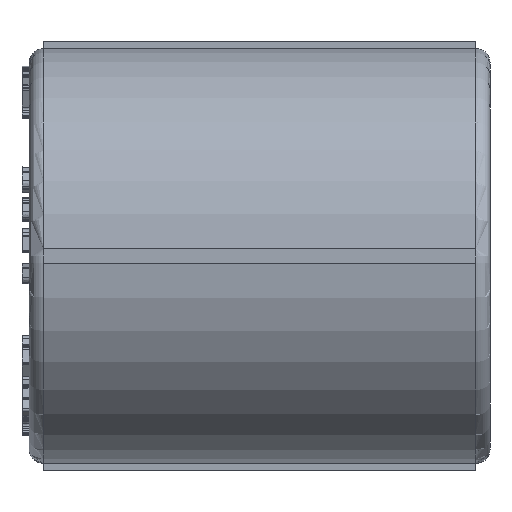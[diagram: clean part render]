
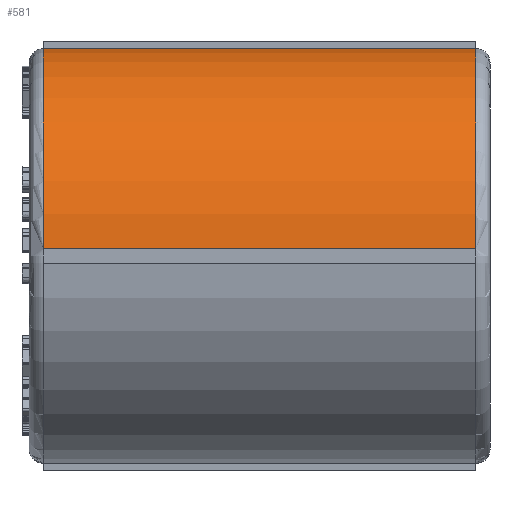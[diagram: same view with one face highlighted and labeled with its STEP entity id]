
A CAD part, left-side view. The second image highlights one B-rep face of the part: STEP entity #581.
In plain terms, the highlighted cylindrical face has radius 14.5 mm (diameter 29 mm), a partial arc.
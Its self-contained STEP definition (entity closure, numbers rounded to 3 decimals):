
#581=ADVANCED_FACE('',(#4056),#4058,.T.);
#4056=FACE_BOUND('',#4057,.T.);
#4057=EDGE_LOOP('',(#8224,#8225,#8226,#8227));
#4058=CYLINDRICAL_SURFACE('',#4059,14.5);
#4059=AXIS2_PLACEMENT_3D('',#4060,#4061,#4062);
#4060=CARTESIAN_POINT('',(0.,-16.1,0.));
#4061=DIRECTION('',(0.,1.,0.));
#4062=DIRECTION('',(-1.,0.,0.));
#8224=ORIENTED_EDGE('',*,*,#9837,.T.);
#8225=ORIENTED_EDGE('',*,*,#9838,.F.);
#8226=ORIENTED_EDGE('',*,*,#9829,.F.);
#8227=ORIENTED_EDGE('',*,*,#9839,.F.);
#9829=EDGE_CURVE('',#12372,#12374,#12375,.T.);
#9837=EDGE_CURVE('',#12387,#12388,#12389,.T.);
#9838=EDGE_CURVE('',#12374,#12388,#12390,.F.);
#9839=EDGE_CURVE('',#12387,#12372,#12391,.T.);
#12372=VERTEX_POINT('',#17933);
#12374=VERTEX_POINT('',#17938);
#12375=CIRCLE('',#17939,14.5);
#12387=VERTEX_POINT('',#17971);
#12388=VERTEX_POINT('',#17972);
#12389=CIRCLE('',#17973,14.5);
#12390=LINE('',#17977,#17978);
#12391=LINE('',#17980,#17981);
#17933=CARTESIAN_POINT('',(-14.491,15.1,0.5));
#17938=CARTESIAN_POINT('',(-0.5,15.1,14.491));
#17939=AXIS2_PLACEMENT_3D('',#17940,#17941,#17942);
#17940=CARTESIAN_POINT('',(0.,15.1,0.));
#17941=DIRECTION('',(0.,1.,0.));
#17942=DIRECTION('',(-0.999,0.,0.034));
#17971=CARTESIAN_POINT('',(-14.491,-15.1,0.5));
#17972=CARTESIAN_POINT('',(-0.5,-15.1,14.491));
#17973=AXIS2_PLACEMENT_3D('',#17974,#17975,#17976);
#17974=CARTESIAN_POINT('',(0.,-15.1,0.));
#17975=DIRECTION('',(0.,1.,0.));
#17976=DIRECTION('',(-0.999,0.,0.034));
#17977=CARTESIAN_POINT('',(-0.5,-15.1,14.491));
#17978=VECTOR('',#17979,1.);
#17979=DIRECTION('',(0.,1.,0.));
#17980=CARTESIAN_POINT('',(-14.491,-15.1,0.5));
#17981=VECTOR('',#17982,1.);
#17982=DIRECTION('',(0.,1.,0.));
